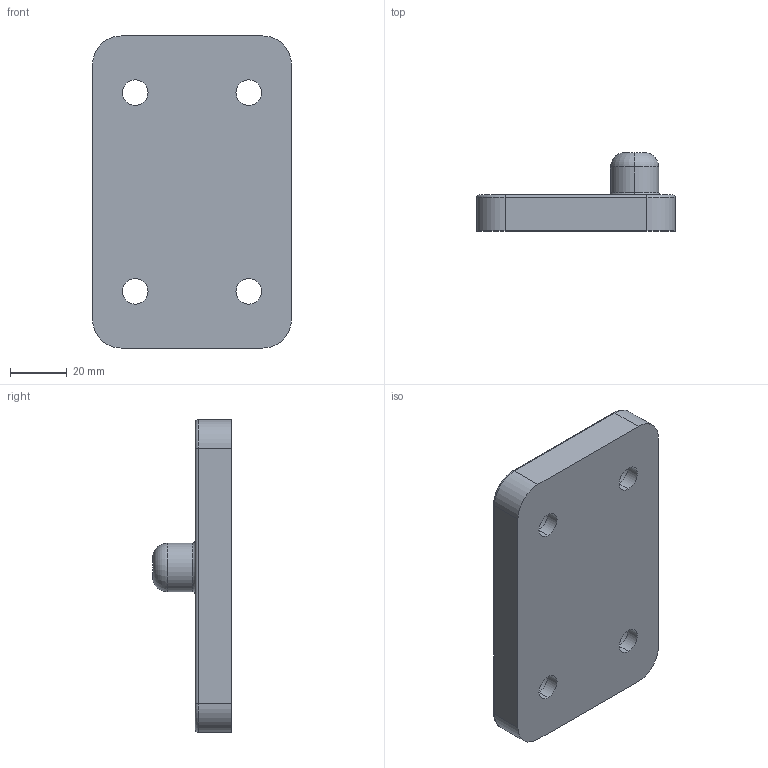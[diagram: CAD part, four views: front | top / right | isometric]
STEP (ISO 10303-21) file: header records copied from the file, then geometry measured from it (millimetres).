
FILE_DESCRIPTION (( 'STEP AP214' ), '1' );
FILE_NAME ('MISC1812FS120BWLPIN-RS.STEP', '2021-03-08T22:54:35', ( '' ), ( '' ), 'SwSTEP 2.0', 'SolidWorks 2021', '' );
FILE_SCHEMA (( 'AUTOMOTIVE_DESIGN' ));
Length unit declared in the file: millimetre
Products named in the file (1): MISC1812FS120BWLPIN-RS
Bounding box: 70 x 27.7 x 110 mm (x, y, z)
Volume: 92935.9 mm3; surface area: 21616 mm2
Topology: 1 solids, 1 shells, 45 faces, 102 edges, 64 vertices
Faces by surface type: cylinder 26, plane 11, torus 8
Entity records: 1334 total; most frequent: DIRECTION 258, CARTESIAN_POINT 212, ORIENTED_EDGE 204, AXIS2_PLACEMENT_3D 110, EDGE_CURVE 102, VERTEX_POINT 64, CIRCLE 64, EDGE_LOOP 58
